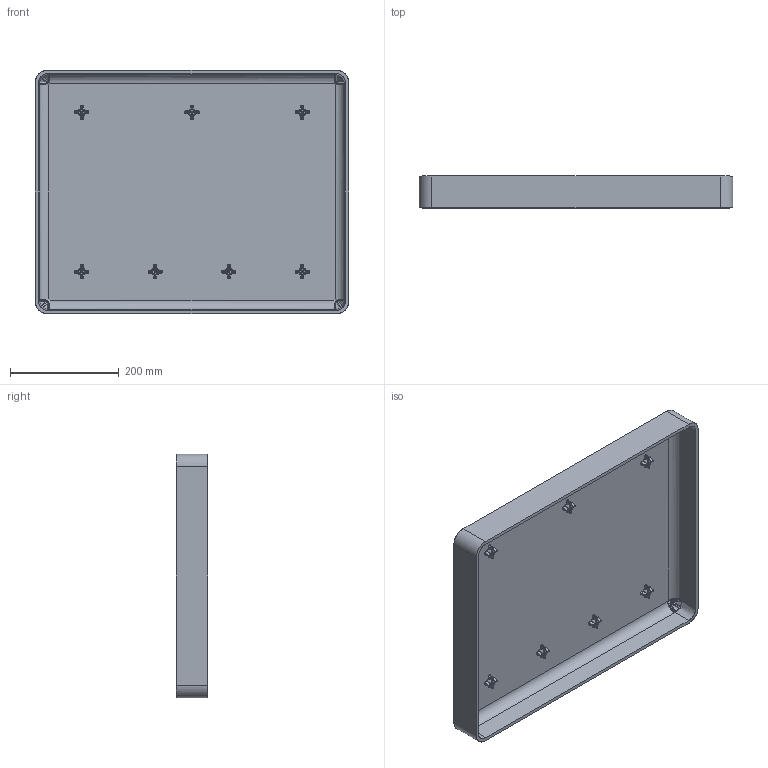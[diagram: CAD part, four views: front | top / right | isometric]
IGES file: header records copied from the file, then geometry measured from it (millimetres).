
Start section: SolidWorks IGES file using analytic representation for surfaces
Global section: file name: C:\working\1620\1621-931T-CLR.IGS; native system: SolidWorks 2006 by SolidWorks Corporation; preprocessor: SolidWorks 2006 by SolidWorks Corporation; author: cchaiyont; date: 071128.145818; units: inch
Bounding box: 577.59 x 58.17 x 448.81 mm (x, y, z)
Surface area: 726753.9 mm2 (no closed solid volume)
Topology: 0 solids, 0 shells, 830 faces, 6473 edges, 6473 vertices
Faces by surface type: bspline 486, revolution 344
